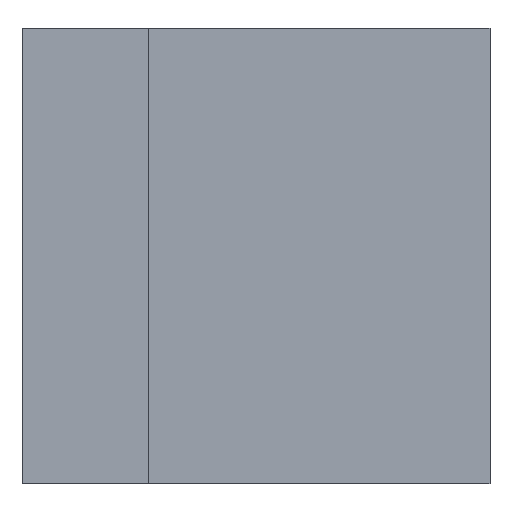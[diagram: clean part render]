
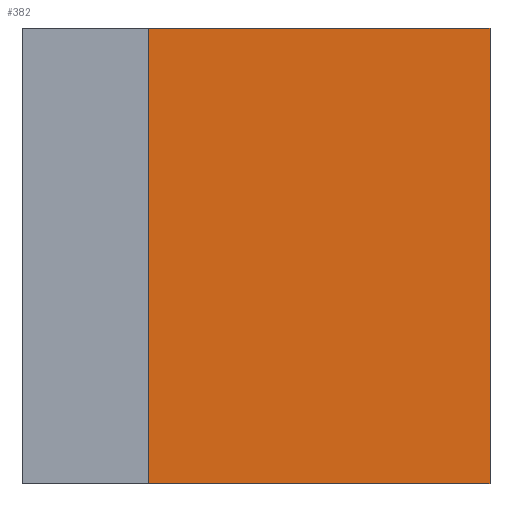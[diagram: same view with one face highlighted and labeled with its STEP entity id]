
A CAD part, left-side view. The second image highlights one B-rep face of the part: STEP entity #382.
In plain terms, the highlighted planar face has unit normal (-1, 0, 0).
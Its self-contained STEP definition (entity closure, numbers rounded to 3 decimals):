
#14 = VECTOR ( 'NONE', #429, 1000. ) ;
#19 = CARTESIAN_POINT ( 'NONE',  ( -675., 675., 900. ) ) ;
#44 = EDGE_CURVE ( 'NONE', #373, #113, #475, .T. ) ;
#49 = AXIS2_PLACEMENT_3D ( 'NONE', #335, #482, #231 ) ;
#60 = VECTOR ( 'NONE', #182, 1000. ) ;
#86 = CARTESIAN_POINT ( 'NONE',  ( -675., 675., 900. ) ) ;
#102 = ORIENTED_EDGE ( 'NONE', *, *, #577, .T. ) ;
#113 = VERTEX_POINT ( 'NONE', #133 ) ;
#122 = VECTOR ( 'NONE', #546, 1000. ) ;
#133 = CARTESIAN_POINT ( 'NONE',  ( -675., 675., 0. ) ) ;
#136 = VECTOR ( 'NONE', #321, 1000. ) ;
#182 = DIRECTION ( 'NONE',  ( 0., 1., 0. ) ) ;
#192 = CARTESIAN_POINT ( 'NONE',  ( -675., 0., 900. ) ) ;
#195 = CARTESIAN_POINT ( 'NONE',  ( -675., 0., 900. ) ) ;
#228 = EDGE_CURVE ( 'NONE', #530, #373, #462, .T. ) ;
#231 = DIRECTION ( 'NONE',  ( 0., 0., 1. ) ) ;
#250 = VERTEX_POINT ( 'NONE', #19 ) ;
#299 = FACE_OUTER_BOUND ( 'NONE', #495, .T. ) ;
#317 = CARTESIAN_POINT ( 'NONE',  ( -675., 0., 900. ) ) ;
#321 = DIRECTION ( 'NONE',  ( 0., 0., -1. ) ) ;
#335 = CARTESIAN_POINT ( 'NONE',  ( -675., 0., 900. ) ) ;
#373 = VERTEX_POINT ( 'NONE', #592 ) ;
#382 = ADVANCED_FACE ( 'NONE', ( #299 ), #652, .T. ) ;
#406 = ORIENTED_EDGE ( 'NONE', *, *, #44, .F. ) ;
#407 = EDGE_CURVE ( 'NONE', #530, #250, #599, .T. ) ;
#429 = DIRECTION ( 'NONE',  ( 0., 0., -1. ) ) ;
#462 = LINE ( 'NONE', #317, #136 ) ;
#475 = LINE ( 'NONE', #519, #60 ) ;
#482 = DIRECTION ( 'NONE',  ( -1., 0., 0. ) ) ;
#495 = EDGE_LOOP ( 'NONE', ( #406, #543, #637, #102 ) ) ;
#519 = CARTESIAN_POINT ( 'NONE',  ( -675., 0., 0. ) ) ;
#530 = VERTEX_POINT ( 'NONE', #195 ) ;
#543 = ORIENTED_EDGE ( 'NONE', *, *, #228, .F. ) ;
#546 = DIRECTION ( 'NONE',  ( 0., 1., 0. ) ) ;
#577 = EDGE_CURVE ( 'NONE', #250, #113, #602, .T. ) ;
#592 = CARTESIAN_POINT ( 'NONE',  ( -675., 0., 0. ) ) ;
#599 = LINE ( 'NONE', #192, #122 ) ;
#602 = LINE ( 'NONE', #86, #14 ) ;
#637 = ORIENTED_EDGE ( 'NONE', *, *, #407, .T. ) ;
#652 = PLANE ( 'NONE',  #49 ) ;
